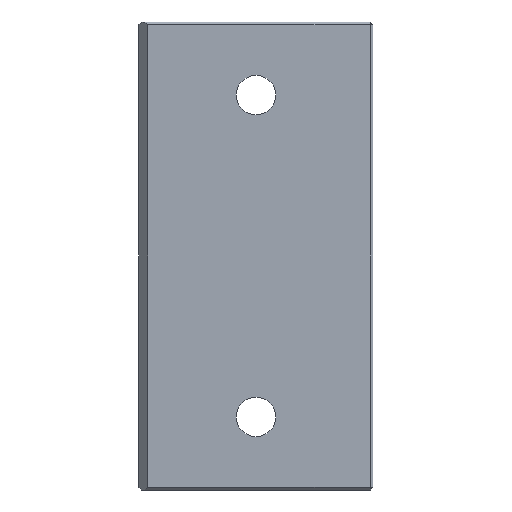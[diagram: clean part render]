
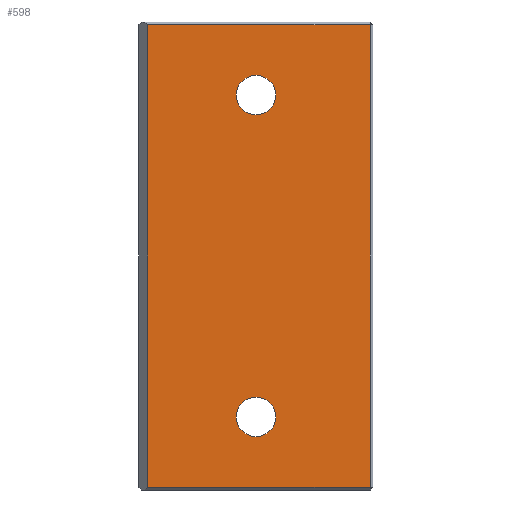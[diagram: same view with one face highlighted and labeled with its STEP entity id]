
A CAD part, front view. The second image highlights one B-rep face of the part: STEP entity #598.
In plain terms, the highlighted planar face has unit normal (0, -1, 0).
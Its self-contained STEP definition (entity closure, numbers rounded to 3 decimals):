
#21=FACE_BOUND('',#117,.T.);
#22=FACE_BOUND('',#118,.T.);
#47=PLANE('',#665);
#79=FACE_OUTER_BOUND('',#116,.T.);
#116=EDGE_LOOP('',(#501,#502,#503,#504));
#117=EDGE_LOOP('',(#505));
#118=EDGE_LOOP('',(#506));
#139=LINE('',#884,#198);
#145=LINE('',#895,#204);
#148=LINE('',#901,#207);
#180=LINE('',#971,#239);
#198=VECTOR('',#720,10.);
#204=VECTOR('',#730,10.);
#207=VECTOR('',#735,10.);
#239=VECTOR('',#807,10.);
#257=CIRCLE('',#666,6.75);
#258=CIRCLE('',#667,6.75);
#275=VERTEX_POINT('',#877);
#277=VERTEX_POINT('',#882);
#280=VERTEX_POINT('',#890);
#281=VERTEX_POINT('',#897);
#301=VERTEX_POINT('',#978);
#302=VERTEX_POINT('',#980);
#325=EDGE_CURVE('',#277,#275,#139,.T.);
#331=EDGE_CURVE('',#275,#280,#145,.T.);
#334=EDGE_CURVE('',#280,#281,#148,.T.);
#370=EDGE_CURVE('',#281,#277,#180,.T.);
#374=EDGE_CURVE('',#301,#301,#257,.T.);
#375=EDGE_CURVE('',#302,#302,#258,.T.);
#501=ORIENTED_EDGE('',*,*,#325,.F.);
#502=ORIENTED_EDGE('',*,*,#370,.F.);
#503=ORIENTED_EDGE('',*,*,#334,.F.);
#504=ORIENTED_EDGE('',*,*,#331,.F.);
#505=ORIENTED_EDGE('',*,*,#374,.T.);
#506=ORIENTED_EDGE('',*,*,#375,.T.);
#598=ADVANCED_FACE('',(#79,#21,#22),#47,.F.);
#665=AXIS2_PLACEMENT_3D('',#977,#815,#816);
#666=AXIS2_PLACEMENT_3D('',#979,#817,#818);
#667=AXIS2_PLACEMENT_3D('',#981,#819,#820);
#720=DIRECTION('',(1.,0.,0.));
#730=DIRECTION('',(0.,0.,-1.));
#735=DIRECTION('',(-1.,0.,0.));
#807=DIRECTION('',(0.,0.,1.));
#815=DIRECTION('center_axis',(0.,1.,0.));
#816=DIRECTION('ref_axis',(0.,0.,1.));
#817=DIRECTION('center_axis',(0.,1.,0.));
#818=DIRECTION('ref_axis',(1.,0.,0.));
#819=DIRECTION('center_axis',(0.,1.,0.));
#820=DIRECTION('ref_axis',(1.,0.,0.));
#877=CARTESIAN_POINT('',(79.,0.,159.));
#882=CARTESIAN_POINT('',(3.,0.,159.));
#884=CARTESIAN_POINT('',(20.,0.,159.));
#890=CARTESIAN_POINT('',(79.,0.,1.));
#895=CARTESIAN_POINT('',(79.,0.,120.));
#897=CARTESIAN_POINT('',(3.,0.,1.));
#901=CARTESIAN_POINT('',(60.,0.,1.));
#971=CARTESIAN_POINT('',(3.,0.,40.));
#977=CARTESIAN_POINT('Origin',(40.,0.,80.));
#978=CARTESIAN_POINT('',(33.25,0.,25.));
#979=CARTESIAN_POINT('Origin',(40.,0.,25.));
#980=CARTESIAN_POINT('',(33.25,0.,135.));
#981=CARTESIAN_POINT('Origin',(40.,0.,135.));
